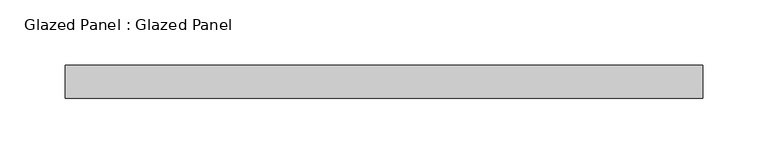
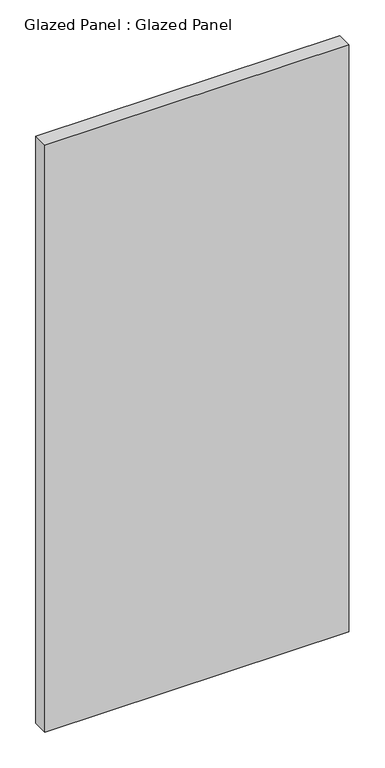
"""IFC4 building model written with IfcOpenShell, lengths in millimetres: plate geometry, Glazed Panel : Glazed Panel."""

from ifc_helpers import new_model, si_unit, origin, origin_with_axes, place, context, project, spatial, polyline, outline, extrude, source, transform, mapped, element, save


def glazed_panel_glazed_panel_14e92379(model_context):
    return source(origin(), model_context, "Body", "SweptSolid", [
        extrude(outline(polyline([(244.4771728, 38.1), (-244.4771728, 38.1), (-244.4771728, 63.5), (244.4771728, 63.5), (244.4771728, 38.1)])), origin_with_axes(), (0.0, 0.0, 1.0), 998.4299428),
    ])


if __name__ == "__main__":
    model = new_model("IFC4")
    model_context = context("Model", 3, world=origin())
    ifc_project = project(units=[si_unit("LENGTHUNIT", "METRE", prefix="MILLI")], contexts=[model_context])
    site = spatial("IfcSite", under=ifc_project)
    building = spatial("IfcBuilding", under=site)
    placement = place(None, origin())
    glazed_panel_glazed_panel_shape = glazed_panel_glazed_panel_14e92379(model_context)
    element("IfcPlate", 1, ObjectType="Glazed Panel : Glazed Panel", at=placement, inside=building, context=model_context, shape_type="MappedRepresentation", body=[
        mapped(glazed_panel_glazed_panel_shape, transform((0.0, 0.0, 0.0), x_axis=(1.0, 0.0, 0.0), y_axis=(0.0, 1.0, 0.0), z_axis=(0.0, 0.0, 1.0))),
    ])
    save(model, "model.ifc")
